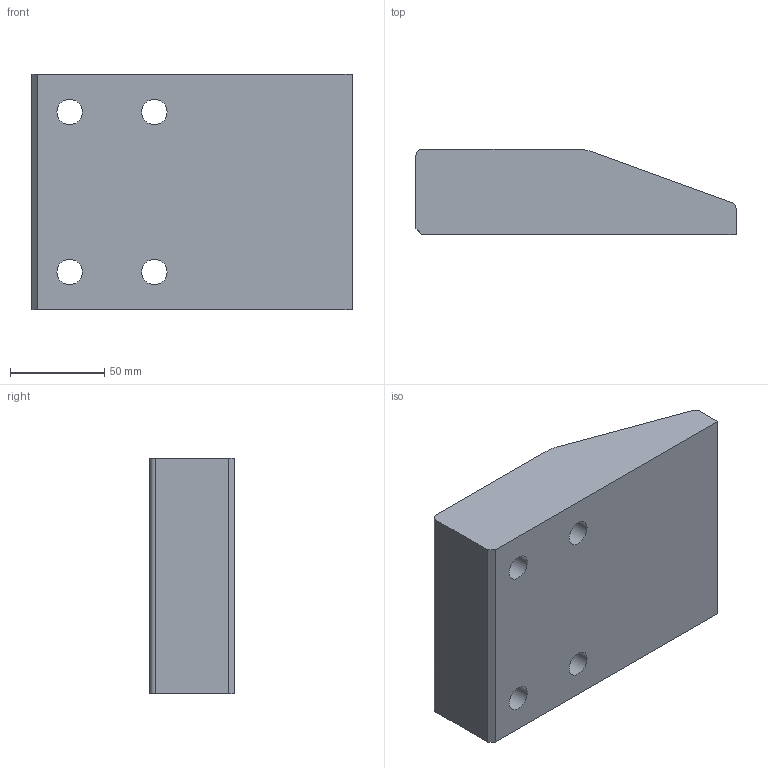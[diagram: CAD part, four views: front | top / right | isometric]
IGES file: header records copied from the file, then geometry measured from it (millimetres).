
Start section: Data from Parasolid IGES Translator 20.0.26, Copyright(c) 2006 Siemens P LM Software. All Rights Reserved.
Global section: file name: G228-01-12517045.igs; native system: By Siemens PLM Incorporated; preprocessor: XPlus GENERIC/IGES 20.0.26; author: Noname; organization: Noname; date: 20190710.094524; units: millimetre
Bounding box: 170 x 45 x 125 mm (x, y, z)
Surface area: 71884.9 mm2 (no closed solid volume)
Topology: 0 solids, 0 shells, 27 faces, 118 edges, 98 vertices
Faces by surface type: revolution 15, extrusion 12
